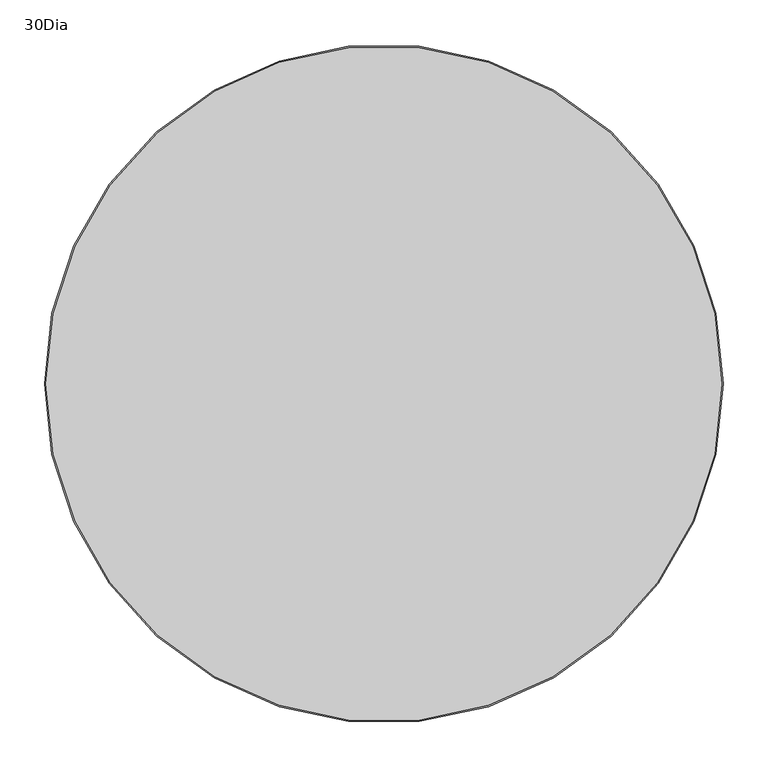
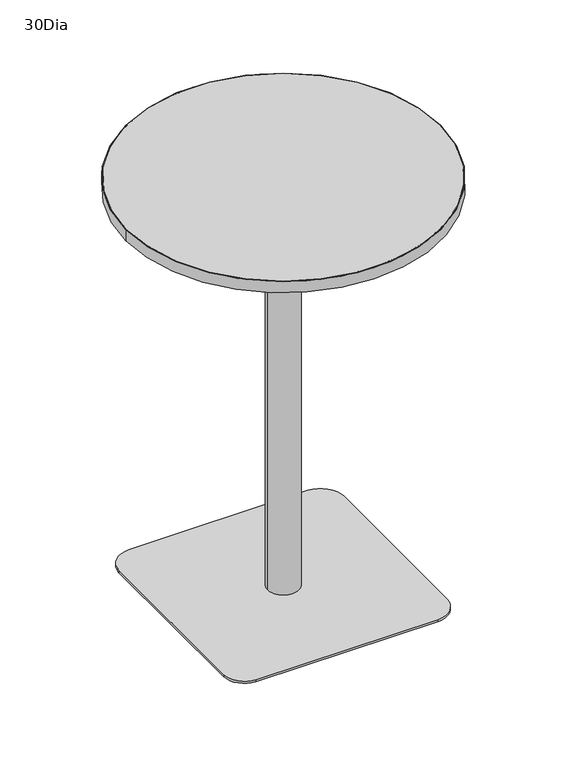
"""IFC4 building model written with IfcOpenShell, lengths in millimetres: furniture geometry, Steelcase_AM_Table_Conference_SimpleTables_CafeHeight_Round : 30Dia."""

from ifc_helpers import new_model, si_unit, point, frame, frame_2d, origin, origin_with_axes, origin_2d, place, context, project, spatial, polyline, circle_curve, trimmed, segment, composite_curve, outline, extrude, source, transform, mapped, element, save


def furniture_30dia_f6c6dedf(model_context):
    return source(origin(), model_context, "Body", "SweptSolid", [
        extrude(outline(composite_curve([segment(trimmed(circle_curve(frame_2d((69.849996, 69.8500161)), 19.05), [point((69.849996, 88.9000161))], [point((88.899996, 69.8500161))], False, "CARTESIAN"), True, "CONTINUOUS"), segment(polyline([(88.899996, 69.8500161), (88.899996, -69.85)]), True, "CONTINUOUS"), segment(trimmed(circle_curve(frame_2d((69.849996, -69.85)), 19.05), [point((88.899996, -69.85))], [point((69.849996, -88.9))], False, "CARTESIAN"), True, "CONTINUOUS"), segment(polyline([(69.849996, -88.9), (-69.8498192, -88.9)]), True, "CONTINUOUS"), segment(trimmed(circle_curve(frame_2d((-69.8498192, -69.85)), 19.05), [point((-69.8498192, -88.9))], [point((-88.8998192, -69.85))], False, "CARTESIAN"), True, "CONTINUOUS"), segment(polyline([(-88.8998192, -69.85), (-88.8998192, 69.8500161)]), True, "CONTINUOUS"), segment(trimmed(circle_curve(frame_2d((-69.8498192, 69.8500161)), 19.05), [point((-88.8998192, 69.8500161))], [point((-69.8498192, 88.9000161))], False, "CARTESIAN"), True, "CONTINUOUS"), segment(polyline([(-69.8498192, 88.9000161), (69.849996, 88.9000161)]), True, "CONTINUOUS")], self_intersect=False)), frame((0.0, 0.0, 1025.1960472), z_axis=(0.0, 0.0, 1.0), x_axis=(1.0, 0.0, 0.0)), (0.0, 0.0, 1.0), 3.4296343),
        extrude(outline(composite_curve([segment(trimmed(circle_curve(origin_2d(), 38.1), [point((-38.1, 0.0))], [point((38.1, 0.0))], False, "CARTESIAN"), True, "CONTINUOUS"), segment(trimmed(circle_curve(origin_2d(), 38.1), [point((38.1, 0.0))], [point((-38.1, 0.0))], False, "CARTESIAN"), True, "CONTINUOUS")], self_intersect=False)), frame((0.0, 0.0, 15.288991), z_axis=(0.0, 0.0, 1.0), x_axis=(1.0, 0.0, 0.0)), (0.0, 0.0, 1.0), 1009.9070562),
        extrude(outline(composite_curve([segment(trimmed(circle_curve(frame_2d((-222.9799787, 222.6077191)), 25.4), [point((-248.3799787, 222.6077191))], [point((-197.5799787, 222.6077191))], False, "CARTESIAN"), True, "CONTINUOUS"), segment(trimmed(circle_curve(frame_2d((-222.9799787, 222.6077191)), 25.4), [point((-197.5799787, 222.6077191))], [point((-248.3799787, 222.6077191))], False, "CARTESIAN"), True, "CONTINUOUS")], self_intersect=False)), origin_with_axes(), (0.0, 0.0, 1.0), 9.257791),
        extrude(outline(composite_curve([segment(trimmed(circle_curve(frame_2d((222.9799787, 222.6077191)), 25.4), [point((197.5799787, 222.6077191))], [point((248.3799787, 222.6077191))], False, "CARTESIAN"), True, "CONTINUOUS"), segment(trimmed(circle_curve(frame_2d((222.9799787, 222.6077191)), 25.4), [point((248.3799787, 222.6077191))], [point((197.5799787, 222.6077191))], False, "CARTESIAN"), True, "CONTINUOUS")], self_intersect=False)), origin_with_axes(), (0.0, 0.0, 1.0), 9.257791),
        extrude(outline(composite_curve([segment(trimmed(circle_curve(frame_2d((-222.9799787, -222.6077191)), 25.4), [point((-248.3799787, -222.6077191))], [point((-197.5799787, -222.6077191))], False, "CARTESIAN"), True, "CONTINUOUS"), segment(trimmed(circle_curve(frame_2d((-222.9799787, -222.6077191)), 25.4), [point((-197.5799787, -222.6077191))], [point((-248.3799787, -222.6077191))], False, "CARTESIAN"), True, "CONTINUOUS")], self_intersect=False)), origin_with_axes(), (0.0, 0.0, 1.0), 9.257791),
        extrude(outline(composite_curve([segment(trimmed(circle_curve(frame_2d((222.9799787, -222.6077191)), 25.4), [point((197.5799787, -222.6077191))], [point((248.3799787, -222.6077191))], False, "CARTESIAN"), True, "CONTINUOUS"), segment(trimmed(circle_curve(frame_2d((222.9799787, -222.6077191)), 25.4), [point((248.3799787, -222.6077191))], [point((197.5799787, -222.6077191))], False, "CARTESIAN"), True, "CONTINUOUS")], self_intersect=False)), origin_with_axes(), (0.0, 0.0, 1.0), 9.257791),
        extrude(outline(composite_curve([segment(trimmed(circle_curve(frame_2d((215.0345132, 215.0233562)), 57.15), [point((216.9417566, 272.1415225))], [point((272.1496581, 217.0190318))], False, "CARTESIAN"), True, "CONTINUOUS"), segment(trimmed(circle_curve(frame_2d((-5664.8518649, 9.5726648)), 5940.6246371), [point((272.1496581, 217.0190318))], [point((271.4411748, -217.2444988))], False, "CARTESIAN"), True, "CONTINUOUS"), segment(trimmed(circle_curve(frame_2d((214.3328457, -215.0624722)), 57.15), [point((271.4411748, -217.2444988))], [point((216.349417, -272.1768832))], False, "CARTESIAN"), True, "CONTINUOUS"), segment(trimmed(circle_curve(frame_2d((9.2619071, 5593.0661053)), 5868.8977287), [point((216.349417, -272.1768832))], [point((-223.3478364, -271.2201478))], False, "CARTESIAN"), True, "CONTINUOUS"), segment(trimmed(circle_curve(frame_2d((-221.3344132, -220.4600638)), 50.8), [point((-223.3478364, -271.2201478))], [point((-272.1031722, -222.2413873))], False, "CARTESIAN"), True, "CONTINUOUS"), segment(trimmed(circle_curve(frame_2d((6061.8771395, -0.0010053)), 6337.8779869), [point((-272.1031722, -222.2413873))], [point((-272.2855196, 216.9800625))], False, "CARTESIAN"), True, "CONTINUOUS"), segment(trimmed(circle_curve(frame_2d((-215.1690215, 215.0234979)), 57.15), [point((-272.2855196, 216.9800625))], [point((-217.0762273, 272.1416654))], False, "CARTESIAN"), True, "CONTINUOUS"), segment(trimmed(circle_curve(frame_2d((-0.0693756, -6226.9124716)), 6502.6761145), [point((-217.0762273, 272.1416654))], [point((216.9417566, 272.1415225))], False, "CARTESIAN"), True, "CONTINUOUS")], self_intersect=False)), frame((0.0, 0.0, 9.257791), z_axis=(0.0, 0.0, 1.0), x_axis=(1.0, 0.0, 0.0)), (0.0, 0.0, 1.0), 6.0312),
        extrude(outline(composite_curve([segment(trimmed(circle_curve(origin_2d(), 379.476), [point((379.476, 0.0))], [point((-379.476, 0.0))], False, "CARTESIAN"), True, "CONTINUOUS"), segment(trimmed(circle_curve(origin_2d(), 379.476), [point((-379.476, 0.0))], [point((379.476, 0.0))], False, "CARTESIAN"), True, "CONTINUOUS")], self_intersect=False)), frame((0.0, 0.0, 1028.6256828), z_axis=(0.0, 0.0, 1.0), x_axis=(1.0, 0.0, 0.0)), (0.0, 0.0, 1.0), 28.5775192),
        extrude(outline(composite_curve([segment(trimmed(circle_curve(origin_2d(), 381.0), [point((-381.0, 0.0))], [point((381.0, 0.0))], False, "CARTESIAN"), True, "CONTINUOUS"), segment(trimmed(circle_curve(origin_2d(), 381.0), [point((381.0, 0.0))], [point((-381.0, 0.0))], False, "CARTESIAN"), True, "CONTINUOUS")], self_intersect=False), holes=[composite_curve([segment(trimmed(circle_curve(origin_2d(), 379.476), [point((-379.476, 0.0))], [point((379.476, 0.0))], True, "CARTESIAN"), True, "CONTINUOUS"), segment(trimmed(circle_curve(origin_2d(), 379.476), [point((379.476, 0.0))], [point((-379.476, 0.0))], True, "CARTESIAN"), True, "CONTINUOUS")], self_intersect=False)]), frame((0.0, 0.0, 1028.6256828), z_axis=(0.0, 0.0, 1.0), x_axis=(1.0, 0.0, 0.0)), (0.0, 0.0, 1.0), 28.5775192),
    ])


if __name__ == "__main__":
    model = new_model("IFC4")
    model_context = context("Model", 3, world=origin())
    ifc_project = project(units=[si_unit("LENGTHUNIT", "METRE", prefix="MILLI")], contexts=[model_context])
    site = spatial("IfcSite", under=ifc_project)
    building = spatial("IfcBuilding", under=site)
    placement = place(None, origin())
    furniture_30dia_shape = furniture_30dia_f6c6dedf(model_context)
    element("IfcFurniture", 1, ObjectType="Steelcase_AM_Table_Conference_SimpleTables_CafeHeight_Round : 30Dia", at=placement, inside=building, context=model_context, shape_type="MappedRepresentation", body=[
        mapped(furniture_30dia_shape, transform((0.0, 0.0, 0.0), x_axis=(1.0, 0.0, 0.0), y_axis=(0.0, 1.0, 0.0), z_axis=(0.0, 0.0, 1.0))),
    ])
    save(model, "model.ifc")
